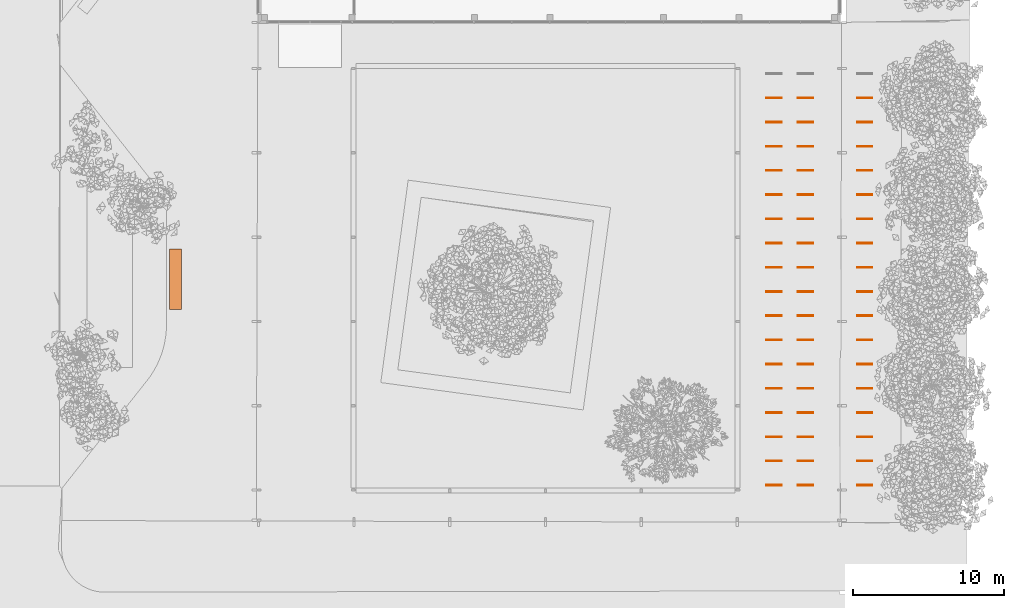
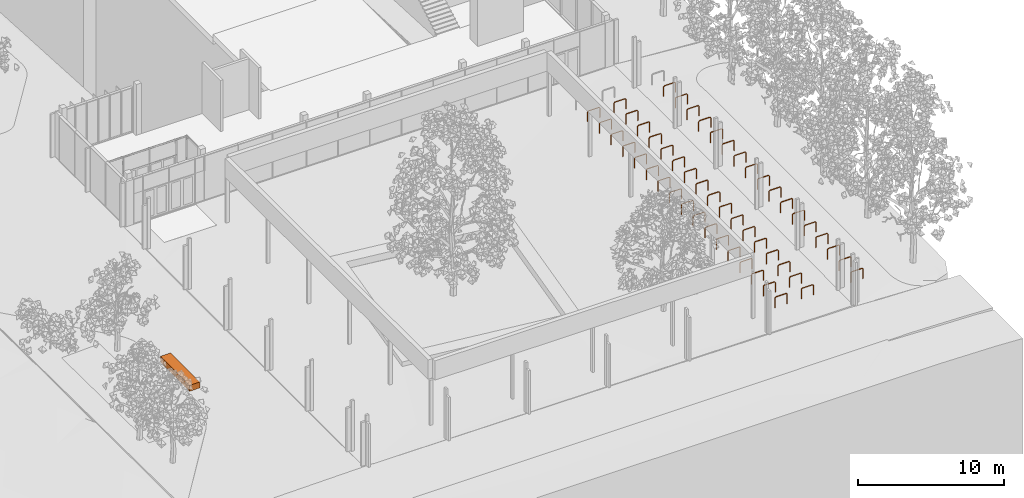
# One storey, part 43 of 69: 52 proxies.
"""IFC2X3 building model written with IfcOpenShell, lengths in millimetres."""

from ifc_helpers import new_model, entity, si_unit, converted_unit, derived_unit, money_unit, direction, frame, origin_with_axes, place, context, subcontext, project, spatial, polyline, outline, extrude, faceted_brep, source, transform, mapped, material, type_object, element, save


model = new_model("IFC2X3")

# Units and contexts
model_context = context("Model", 3, precision=0.01, world=origin_with_axes(), true_north=direction((0.0, 1.0)))
body_context = subcontext(model_context, "Body", "Model", "MODEL_VIEW")
ifc_project = project(units=[si_unit("LENGTHUNIT", "METRE", prefix="MILLI"), si_unit("AREAUNIT", "SQUARE_METRE"), si_unit("VOLUMEUNIT", "CUBIC_METRE"), converted_unit("PLANEANGLEUNIT", "DEGREE", entity("IfcPlaneAngleMeasure", 0.0174532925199), si_unit("PLANEANGLEUNIT", "RADIAN"), dimensions=[0, 0, 0, 0, 0, 0, 0]), si_unit("SOLIDANGLEUNIT", "STERADIAN"), money_unit("EUR"), converted_unit("TIMEUNIT", "Year", entity("IfcTimeMeasure", 31556926.0), si_unit("TIMEUNIT", "SECOND"), dimensions=[0, 0, 1, 0, 0, 0, 0]), si_unit("MASSUNIT", "GRAM", prefix="KILO"), si_unit("THERMODYNAMICTEMPERATUREUNIT", "DEGREE_CELSIUS"), si_unit("LUMINOUSINTENSITYUNIT", "LUMEN"), si_unit("ENERGYUNIT", "JOULE", prefix="MEGA"), derived_unit("THERMALCONDUCTANCEUNIT", [(si_unit("POWERUNIT", "WATT"), 1), (si_unit("LENGTHUNIT", "METRE"), -1), (si_unit("THERMODYNAMICTEMPERATUREUNIT", "KELVIN"), -1)]), derived_unit("SPECIFICHEATCAPACITYUNIT", [(si_unit("ENERGYUNIT", "JOULE"), 1), (si_unit("MASSUNIT", "GRAM", prefix="KILO"), -1), (si_unit("THERMODYNAMICTEMPERATUREUNIT", "KELVIN"), -1)]), derived_unit("MASSDENSITYUNIT", [(si_unit("MASSUNIT", "GRAM", prefix="KILO"), 1), (si_unit("VOLUMEUNIT", "CUBIC_METRE"), -1)])], contexts=[model_context])

# Site, building, storey
site_placement = place(None, origin_with_axes())
site = spatial("IfcSite", under=ifc_project, at=site_placement, Name="Puškini 31, Narva", CompositionType="ELEMENT")
building_placement = place(site_placement, origin_with_axes())
building = spatial("IfcBuilding", under=site, at=building_placement, Name="Narva Riigigümnaasium", CompositionType="ELEMENT")
storey_placement = place(building_placement, origin_with_axes())
storey = spatial("IfcBuildingStorey", under=building, at=storey_placement, Name="1.korrus 0.00", CompositionType="ELEMENT", Elevation=0.0)

# Proxies
ifc_material_1 = material(Name="Must teras")
building_element_proxy_type_1 = type_object("IfcBuildingElementProxyType", Name="Extery kaar 1000 1000 x 900", PredefinedType="NOTDEFINED")
shared_shape = source(origin_with_axes(), body_context, "Body", "Brep", [
    faceted_brep([(50.0000012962, -117.382138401, 900.0), (50.0000012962, -74.104717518, 888.328428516), (0.0, -74.104717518, 888.328428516), (0.0, -117.382138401, 900.0), (50.0000012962, -882.617861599, 900.0), (50.0000012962, -925.895282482, 888.328428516), (50.0000012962, -962.598743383, 862.598743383), (50.0000012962, -988.328428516, 825.895282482), (50.0000012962, -1000.0, 782.617861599), (50.0000012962, -1000.0, 0.0), (50.0000012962, -950.0, 0.0), (50.0000012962, -950.0, 780.108170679), (50.0000012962, -938.309844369, 813.375909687), (50.0000012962, -913.375909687, 838.309844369), (50.0000012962, -880.108170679, 850.0), (50.0000012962, -119.891829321, 850.0), (50.0000012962, -86.6240903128, 838.309844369), (50.0000012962, -61.6901556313, 813.375909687), (50.0000012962, -50.0, 780.108170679), (50.0000012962, -50.0, 0.0), (50.0000012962, 0.0, 0.0), (50.0000012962, 0.0, 782.617861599), (50.0000012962, -11.6715714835, 825.895282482), (50.0000012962, -37.4012566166, 862.598743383), (0.0, -37.4012566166, 862.598743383), (0.0, -11.6715714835, 825.895282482), (0.0, 0.0, 782.617861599), (0.0, 0.0, 0.0), (0.0, -50.0, 0.0), (0.0, -50.0, 780.108170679), (0.0, -61.6901556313, 813.375909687), (0.0, -86.6240903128, 838.309844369), (0.0, -119.891829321, 850.0), (0.0, -880.108170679, 850.0), (0.0, -913.375909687, 838.309844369), (0.0, -938.309844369, 813.375909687), (0.0, -950.0, 780.108170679), (0.0, -950.0, 0.0), (0.0, -1000.0, 0.0), (0.0, -1000.0, 782.617861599), (0.0, -988.328428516, 825.895282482), (0.0, -962.598743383, 862.598743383), (0.0, -925.895282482, 888.328428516), (0.0, -882.617861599, 900.0)], [[[0, 1, 2, 3]], [[0, 4, 5, 6, 7, 8, 9, 10, 11, 12, 13, 14, 15, 16, 17, 18, 19, 20, 21, 22, 23, 1]], [[1, 23, 24, 2]], [[3, 2, 24, 25, 26, 27, 28, 29, 30, 31, 32, 33, 34, 35, 36, 37, 38, 39, 40, 41, 42, 43]], [[4, 0, 3, 43]], [[5, 4, 43, 42]], [[6, 5, 42, 41]], [[7, 6, 41, 40]], [[8, 7, 40, 39]], [[9, 8, 39, 38]], [[10, 9, 38, 37]], [[11, 10, 37, 36]], [[12, 11, 36, 35]], [[13, 12, 35, 34]], [[14, 13, 34, 33]], [[15, 14, 33, 32]], [[16, 15, 32, 31]], [[17, 16, 31, 30]], [[18, 17, 30, 29]], [[19, 18, 29, 28]], [[20, 19, 28, 27]], [[21, 20, 27, 26]], [[22, 21, 26, 25]], [[23, 22, 25, 24]]]),
])
for number, where, z_axis, x_axis, name in (
    (1, (55498.591574, 120956.883154, 0.0), (0.0, 0.0, 1.0), (1.73167787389e-08, 1.0, 0.0), "Extery kaar 1001"),
    (2, (55498.591574, 119356.883154, 0.0), (0.0, 0.0, 1.0), (1.73167787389e-08, 1.0, 0.0), "Extery kaar 1001"),
    (3, (49509.999999, 127356.882501, 0.0), (0.0, 0.0, 1.0), (1.73167787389e-08, 1.0, 0.0), "Extery kaar 1001"),
    (4, (51590.1587432, 119356.883154, 0.0), (0.0, 0.0, 1.0), (1.73167787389e-08, 1.0, 0.0), "Extery kaar 1001"),
    (5, (49509.999999, 120956.882501, 0.0), (0.0, 0.0, 1.0), (1.73167787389e-08, 1.0, 0.0), "Extery kaar 1001"),
    (6, (51590.1587432, 120956.883154, 0.0), (0.0, 0.0, 1.0), (1.73167787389e-08, 1.0, 0.0), "Extery kaar 1001"),
    (7, (49509.999999, 122556.882501, 0.0), (0.0, 0.0, 1.0), (1.73167787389e-08, 1.0, 0.0), "Extery kaar 1001"),
    (8, (51590.1587432, 122556.883154, 0.0), (0.0, 0.0, 1.0), (1.73167787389e-08, 1.0, 0.0), "Extery kaar 1001"),
    (9, (49509.999999, 124156.882501, 0.0), (0.0, 0.0, 1.0), (1.73167787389e-08, 1.0, 0.0), "Extery kaar 1001"),
    (10, (51590.1587432, 124156.883154, 0.0), (0.0, 0.0, 1.0), (1.73167787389e-08, 1.0, 0.0), "Extery kaar 1001"),
    (11, (49509.999999, 125756.882501, 0.0), (0.0, 0.0, 1.0), (1.73167787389e-08, 1.0, 0.0), "Extery kaar 1001"),
    (12, (51590.1587432, 125756.883154, 0.0), (0.0, 0.0, 1.0), (1.73167787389e-08, 1.0, 0.0), "Extery kaar 1001"),
    (13, (49509.999999, 119356.882501, 0.0), (0.0, 0.0, 1.0), (1.73167787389e-08, 1.0, 0.0), "Extery kaar 1001"),
    (14, (51590.1587432, 127356.883154, 0.0), (0.0, 0.0, 1.0), (1.73167787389e-08, 1.0, 0.0), "Extery kaar 1001"),
    (15, (51590.1587432, 144956.883154, 0.0), (0.0, 0.0, 1.0), (1.73167787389e-08, 1.0, 0.0), "Extery kaar 1001"),
    (16, (49509.999999, 144956.882501, 0.0), (0.0, 0.0, 1.0), (1.73167787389e-08, 1.0, 0.0), "Extery kaar 1001"),
    (17, (51590.1587432, 143356.883154, 0.0), (0.0, 0.0, 1.0), (1.73167787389e-08, 1.0, 0.0), "Extery kaar 1001"),
    (18, (49509.999999, 143356.882501, 0.0), (0.0, 0.0, 1.0), (1.73167787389e-08, 1.0, 0.0), "Extery kaar 1001"),
    (19, (51590.1587432, 141756.883154, 0.0), (0.0, 0.0, 1.0), (1.73167787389e-08, 1.0, 0.0), "Extery kaar 1001"),
    (20, (49509.999999, 141756.882501, 0.0), (0.0, 0.0, 1.0), (1.73167787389e-08, 1.0, 0.0), "Extery kaar 1001"),
    (21, (51590.1587432, 140156.883154, 0.0), (0.0, 0.0, 1.0), (1.73167787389e-08, 1.0, 0.0), "Extery kaar 1001"),
    (22, (49509.999999, 140156.882501, 0.0), (0.0, 0.0, 1.0), (1.73167787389e-08, 1.0, 0.0), "Extery kaar 1001"),
    (23, (51590.1587432, 138556.883154, 0.0), (0.0, 0.0, 1.0), (1.73167787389e-08, 1.0, 0.0), "Extery kaar 1001"),
    (24, (49509.999999, 138556.882501, 0.0), (0.0, 0.0, 1.0), (1.73167787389e-08, 1.0, 0.0), "Extery kaar 1001"),
    (25, (51590.1587432, 136956.883154, 0.0), (0.0, 0.0, 1.0), (1.73167787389e-08, 1.0, 0.0), "Extery kaar 1001"),
    (26, (49509.999999, 136956.882501, 0.0), (0.0, 0.0, 1.0), (1.73167787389e-08, 1.0, 0.0), "Extery kaar 1001"),
    (27, (51590.1587432, 135356.883154, 0.0), (0.0, 0.0, 1.0), (1.73167787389e-08, 1.0, 0.0), "Extery kaar 1001"),
    (28, (49509.999999, 135356.882501, 0.0), (0.0, 0.0, 1.0), (1.73167787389e-08, 1.0, 0.0), "Extery kaar 1001"),
    (29, (51590.1587432, 133756.883154, 0.0), (0.0, 0.0, 1.0), (1.73167787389e-08, 1.0, 0.0), "Extery kaar 1001"),
    (30, (49509.999999, 133756.882501, 0.0), (0.0, 0.0, 1.0), (1.73167787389e-08, 1.0, 0.0), "Extery kaar 1001"),
    (31, (51590.1587432, 132156.883154, 0.0), (0.0, 0.0, 1.0), (1.73167787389e-08, 1.0, 0.0), "Extery kaar 1001"),
    (32, (49509.999999, 132156.882501, 0.0), (0.0, 0.0, 1.0), (1.73167787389e-08, 1.0, 0.0), "Extery kaar 1001"),
    (33, (51590.1587432, 130556.883154, 0.0), (0.0, 0.0, 1.0), (1.73167787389e-08, 1.0, 0.0), "Extery kaar 1001"),
    (34, (49509.999999, 130556.882501, 0.0), (0.0, 0.0, 1.0), (1.73167787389e-08, 1.0, 0.0), "Extery kaar 1001"),
    (35, (51590.1587432, 128956.883154, 0.0), (0.0, 0.0, 1.0), (1.73167787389e-08, 1.0, 0.0), "Extery kaar 1001"),
    (36, (49509.999999, 128956.882501, 0.0), (0.0, 0.0, 1.0), (1.73167787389e-08, 1.0, 0.0), "Extery kaar 1001"),
    (37, (55498.591574, 144956.883154, 0.0), (0.0, 0.0, 1.0), (1.73167787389e-08, 1.0, 0.0), "Extery kaar 1001"),
    (38, (55498.591574, 143356.883154, 0.0), (0.0, 0.0, 1.0), (1.73167787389e-08, 1.0, 0.0), "Extery kaar 1001"),
    (39, (55498.591574, 141756.883154, 0.0), (0.0, 0.0, 1.0), (1.73167787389e-08, 1.0, 0.0), "Extery kaar 1001"),
    (40, (55498.591574, 140156.883154, 0.0), (0.0, 0.0, 1.0), (1.73167787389e-08, 1.0, 0.0), "Extery kaar 1001"),
    (41, (55498.591574, 138556.883154, 0.0), (0.0, 0.0, 1.0), (1.73167787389e-08, 1.0, 0.0), "Extery kaar 1001"),
    (42, (55498.591574, 136956.883154, 0.0), (0.0, 0.0, 1.0), (1.73167787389e-08, 1.0, 0.0), "Extery kaar 1001"),
    (43, (55498.591574, 135356.883154, 0.0), (0.0, 0.0, 1.0), (1.73167787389e-08, 1.0, 0.0), "Extery kaar 1001"),
    (44, (55498.591574, 133756.883154, 0.0), (0.0, 0.0, 1.0), (1.73167787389e-08, 1.0, 0.0), "Extery kaar 1001"),
    (45, (55498.591574, 132156.883154, 0.0), (0.0, 0.0, 1.0), (1.73167787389e-08, 1.0, 0.0), "Extery kaar 1001"),
    (46, (55498.591574, 130556.883154, 0.0), (0.0, 0.0, 1.0), (1.73167787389e-08, 1.0, 0.0), "Extery kaar 1001"),
    (47, (55498.591574, 128956.883154, 0.0), (0.0, 0.0, 1.0), (1.73167787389e-08, 1.0, 0.0), "Extery kaar 1001"),
    (48, (55498.591574, 127356.883154, 0.0), (0.0, 0.0, 1.0), (1.73167787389e-08, 1.0, 0.0), "Extery kaar 1001"),
    (49, (55498.591574, 125756.883154, 0.0), (0.0, 0.0, 1.0), (1.73167787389e-08, 1.0, 0.0), "Extery kaar 1001"),
    (50, (55498.591574, 124156.883154, 0.0), (0.0, 0.0, 1.0), (1.73167787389e-08, 1.0, 0.0), "Extery kaar 1001"),
    (51, (55498.591574, 122556.883154, 0.0), (0.0, 0.0, 1.0), (1.73167787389e-08, 1.0, 0.0), "Extery kaar 1001"),
):
    element("IfcBuildingElementProxy", number, at=place(storey_placement, frame(where, z_axis=z_axis, x_axis=x_axis)), inside=storey, type_object=building_element_proxy_type_1, material=ifc_material_1, Name=name, context=body_context, shape_type="MappedRepresentation", body=[
        mapped(shared_shape, transform((0.0, 0.0, 0.0))),
    ])
ifc_material_2 = material(Name="Puit - Põrand")
building_element_proxy_type_2 = type_object("IfcBuildingElementProxyType", Name="Puit - Põrand 500", PredefinedType="NOTDEFINED")
proxy_placement = place(storey_placement, frame((10053.4996566, 134994.296063, 306.251303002), z_axis=(0.0, 0.0, 1.0), x_axis=(1.0, 0.0, 0.0)))
element("IfcBuildingElementProxy", 52, at=proxy_placement, inside=storey, type_object=building_element_proxy_type_2, material=ifc_material_2, Name="Pink-2", context=body_context, shape_type="SweptSolid", body=[
    extrude(outline(polyline([(0.0, 0.0), (-8.96695580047, -3999.98994948), (791.031033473, -4001.78334003), (793.827976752, -1.78907638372), (0.0, 0.0)])), frame((0.0, 0.0, -500.0), z_axis=(0.0, 0.0, 1.0), x_axis=(1.0, 0.0, 0.0)), (0.0, 0.0, 1.0), 500.0),
])

save(model, "model.ifc")
